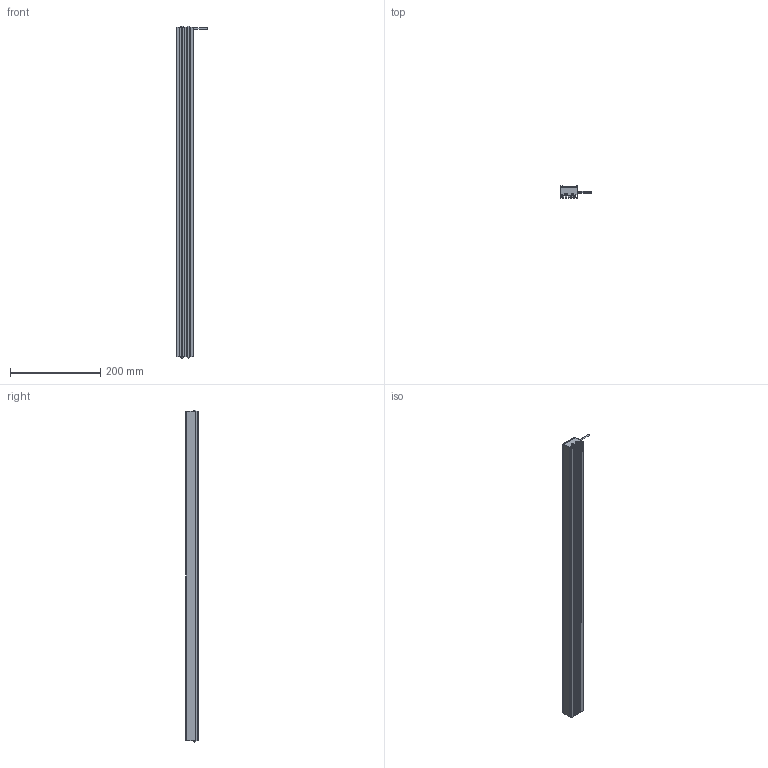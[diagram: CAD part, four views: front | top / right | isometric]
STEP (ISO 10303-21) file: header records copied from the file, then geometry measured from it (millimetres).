
FILE_DESCRIPTION((''),'2;1');
FILE_NAME('MV-LLDS-732-38_ASM','2020-12-31T',('Administrator'),(''),'PRO/ENGINEER BY PARAMETRIC TECHNOLOGY CORPORATION, 2010100','PRO/ENGINEER BY PARAMETRIC TECHNOLOGY CORPORATION, 2010100','');
FILE_SCHEMA(('CONFIG_CONTROL_DESIGN'));
Length unit declared in the file: millimetre
Products named in the file (3): BL-6_2_; M3-5_3; MV-LLDS-732-38_ASM
Assembly tree (5 placements, depth 2):
  MV-LLDS-732-38_ASM
    BL-6_2_
    M3-5_3  x4
Bounding box: 68 x 27 x 736.68 mm (x, y, z)
Volume: 612309.8 mm3; surface area: 175447.7 mm2
Topology: 5 solids, 13 shells, 349 faces, 934 edges, 604 vertices
Faces by surface type: plane 223, cylinder 78, cone 16, bspline 16, torus 8, sphere 8
Entity records: 8197 total; most frequent: CARTESIAN_POINT 1689, ORIENTED_EDGE 1338, DIRECTION 1310, EDGE_CURVE 679, VECTOR 514, LINE 514, VERTEX_POINT 445, AXIS2_PLACEMENT_3D 398
